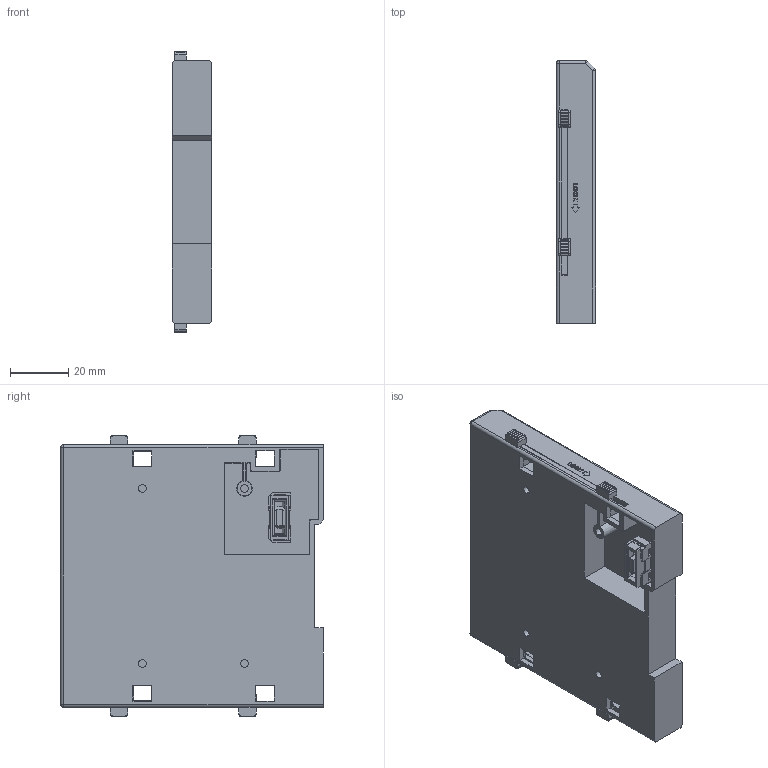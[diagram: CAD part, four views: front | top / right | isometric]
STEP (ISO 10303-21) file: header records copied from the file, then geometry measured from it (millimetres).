
FILE_DESCRIPTION((''),'2;1');
FILE_NAME('XCPU-R-END-COVER_ASM','2022-06-22T22:40:27',('Jacky Chang'),(''),'CREO PARAMETRIC BY PTC INC, 2021284','CREO PARAMETRIC BY PTC INC, 2021284','');
FILE_SCHEMA(('CONFIG_CONTROL_DESIGN'));
Length unit declared in the file: millimetre
Products named in the file (2): XCPU-R-END-COVER; XCPU-R-END-COVER_ASM
Assembly tree (1 placements, depth 2):
  XCPU-R-END-COVER_ASM
    XCPU-R-END-COVER
Bounding box: 13.4 x 90 x 96.6 mm (x, y, z)
Volume: 92293.4 mm3; surface area: 27479.9 mm2
Topology: 1 solids, 1 shells, 631 faces, 1726 edges, 1118 vertices
Faces by surface type: plane 456, cylinder 104, extrusion 60, sphere 10, cone 1
Entity records: 20062 total; most frequent: CARTESIAN_POINT 4057, ORIENTED_EDGE 3444, DIRECTION 2990, EDGE_CURVE 1722, VECTOR 1434, LINE 1374, VERTEX_POINT 1118, AXIS2_PLACEMENT_3D 778
